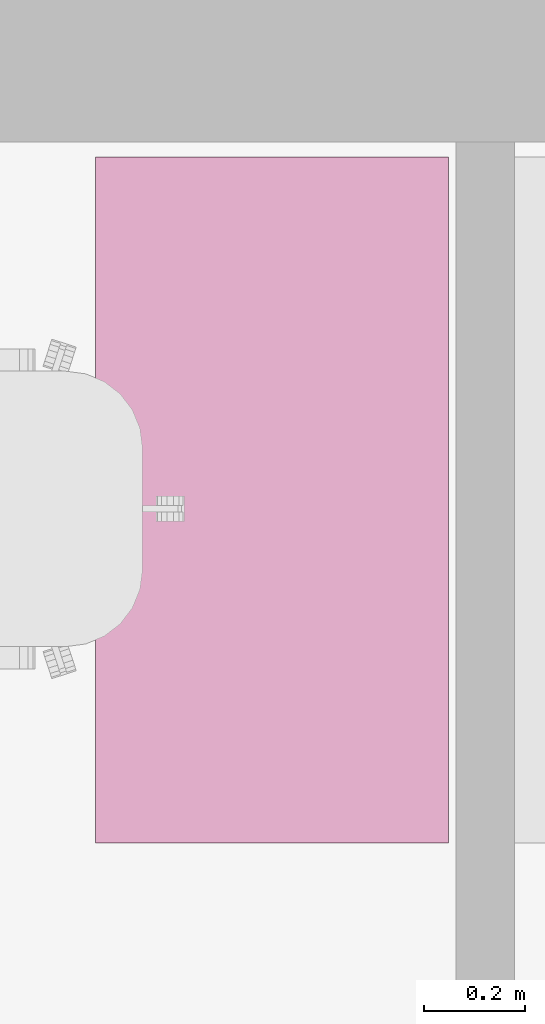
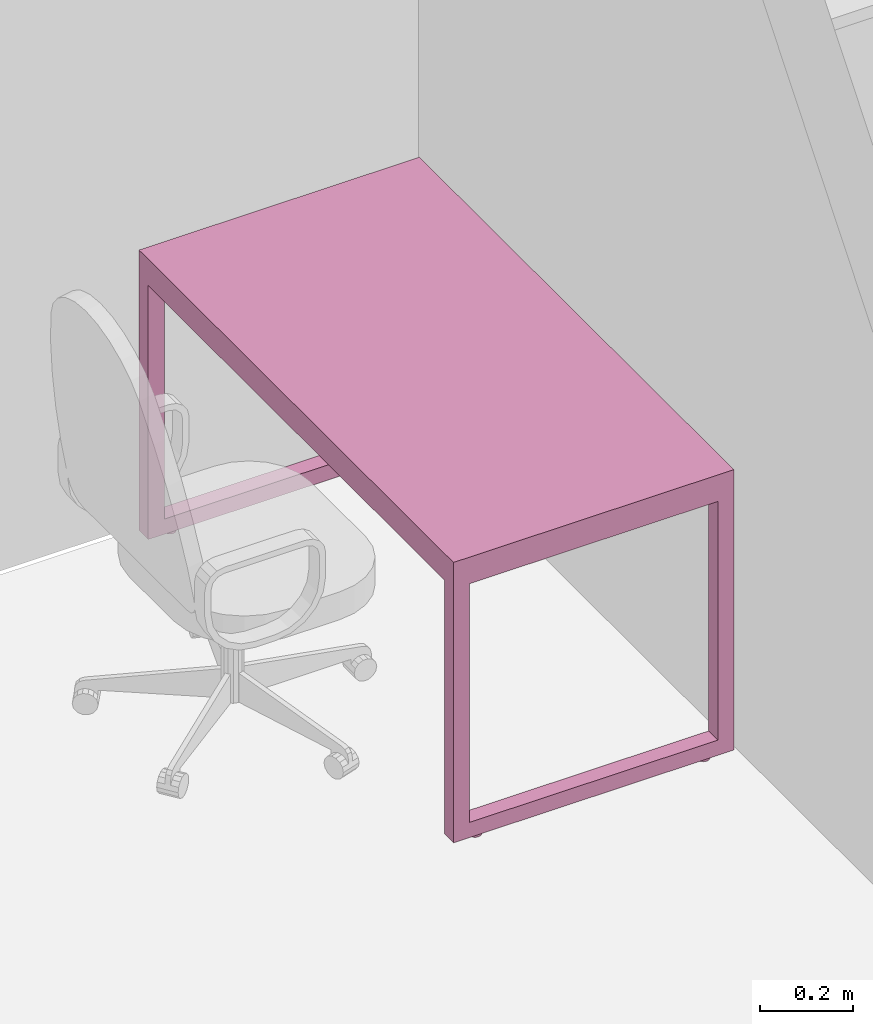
# One storey, part 42 of 48: 1 furnishing.
"""IFC2X3 building model written with IfcOpenShell, lengths in millimetres."""

from ifc_helpers import new_model, entity, si_unit, converted_unit, derived_unit, direction, frame, origin, place, context, subcontext, project, spatial, faceted_brep, source, transform, mapped, material, material_list, type_object, type_shapes, element, save


model = new_model("IFC2X3")

# Units and contexts
model_context = context("Model", 3, precision=0.01, world=origin(), true_north=direction((6.12303176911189e-17, 1.0)))
body_context = subcontext(model_context, "Body", "Model", "MODEL_VIEW")
ifc_project = project(units=[si_unit("LENGTHUNIT", "METRE", prefix="MILLI"), si_unit("AREAUNIT", "SQUARE_METRE"), si_unit("VOLUMEUNIT", "CUBIC_METRE"), converted_unit("PLANEANGLEUNIT", "DEGREE", entity("IfcRatioMeasure", 0.0174532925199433), si_unit("PLANEANGLEUNIT", "RADIAN"), dimensions=[0, 0, 0, 0, 0, 0, 0]), si_unit("MASSUNIT", "GRAM", prefix="KILO"), derived_unit("MASSDENSITYUNIT", [(si_unit("MASSUNIT", "GRAM", prefix="KILO"), 1), (si_unit("LENGTHUNIT", "METRE"), -3)]), si_unit("TIMEUNIT", "SECOND"), si_unit("FREQUENCYUNIT", "HERTZ"), si_unit("THERMODYNAMICTEMPERATUREUNIT", "DEGREE_CELSIUS"), derived_unit("THERMALTRANSMITTANCEUNIT", [(si_unit("MASSUNIT", "GRAM", prefix="KILO"), 1), (si_unit("THERMODYNAMICTEMPERATUREUNIT", "KELVIN"), -1), (si_unit("TIMEUNIT", "SECOND"), -3)]), derived_unit("VOLUMETRICFLOWRATEUNIT", [(si_unit("LENGTHUNIT", "METRE"), 3), (si_unit("TIMEUNIT", "SECOND"), -1)]), si_unit("ELECTRICCURRENTUNIT", "AMPERE"), si_unit("ELECTRICVOLTAGEUNIT", "VOLT"), si_unit("POWERUNIT", "WATT"), si_unit("FORCEUNIT", "NEWTON", prefix="KILO"), si_unit("ILLUMINANCEUNIT", "LUX"), si_unit("LUMINOUSFLUXUNIT", "LUMEN"), si_unit("LUMINOUSINTENSITYUNIT", "CANDELA"), derived_unit("USERDEFINED", [(si_unit("MASSUNIT", "GRAM", prefix="KILO"), -1), (si_unit("LENGTHUNIT", "METRE"), -2), (si_unit("TIMEUNIT", "SECOND"), 3), (si_unit("LUMINOUSFLUXUNIT", "LUMEN"), 1)]), derived_unit("LINEARVELOCITYUNIT", [(si_unit("LENGTHUNIT", "METRE"), 1), (si_unit("TIMEUNIT", "SECOND"), -1)]), si_unit("PRESSUREUNIT", "PASCAL"), derived_unit("USERDEFINED", [(si_unit("LENGTHUNIT", "METRE"), -2), (si_unit("MASSUNIT", "GRAM", prefix="KILO"), 1), (si_unit("TIMEUNIT", "SECOND"), -2)]), derived_unit("LINEARFORCEUNIT", [(si_unit("MASSUNIT", "GRAM", prefix="KILO"), 1), (si_unit("LENGTHUNIT", "METRE"), 1), (si_unit("TIMEUNIT", "SECOND"), -2), (si_unit("LENGTHUNIT", "METRE"), -1)]), derived_unit("PLANARFORCEUNIT", [(si_unit("MASSUNIT", "GRAM", prefix="KILO"), 1), (si_unit("LENGTHUNIT", "METRE"), 1), (si_unit("TIMEUNIT", "SECOND"), -2), (si_unit("LENGTHUNIT", "METRE"), -2)])], contexts=[model_context])

# Site, building, storey, space
site_placement = place(None, origin())
site = spatial("IfcSite", under=ifc_project, at=site_placement, Name="Default", CompositionType="ELEMENT")
building_placement = place(site_placement, origin())
building = spatial("IfcBuilding", under=site, at=building_placement, Name="SMA ARH", CompositionType="ELEMENT")
storey_placement = place(building_placement, frame((0.0, 0.0, 3300.0)))
storey = spatial("IfcBuildingStorey", under=building, at=storey_placement, Name="2 Korrus", CompositionType="ELEMENT", Elevation=3299.99999999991)
space_placement = place(storey_placement, origin())
space = spatial("IfcSpace", under=storey, at=space_placement, Name="2-29", CompositionType="ELEMENT", InteriorOrExteriorSpace="INTERNAL")

# Furnishing
ifc_material = material(Name="<Unnamed>")
ifc_material_list = material_list([ifc_material, ifc_material])
furniture_type = type_object("IfcFurnitureType", Name="kirjutuslaud 1360x700mm:kirjutuslaud 1360x700mm", material=ifc_material_list)
shared_shape = source(origin(), body_context, "Body", "Brep", [
    faceted_brep([(680.0, 350.0, 720.0), (680.0, 350.0, 750.0), (680.0, -350.0, 750.0), (680.0, -350.0, 720.0), (-680.0, 350.0, 720.0), (-680.0, -350.0, 720.0), (-680.0, -350.0, 750.0), (-680.0, 350.0, 750.0)], [[[0, 1, 2, 3]], [[4, 5, 6, 7]], [[3, 5, 4, 0]], [[2, 6, 5, 3]], [[1, 7, 6, 2]], [[0, 4, 7, 1]]]),
    faceted_brep([(-640.0, 310.0, 680.0), (-640.0, 310.0, 720.0), (-640.0, -310.0, 720.0), (-640.0, -310.0, 680.0), (-680.0, 350.0, 720.0), (-680.0, 350.0, 10.0), (-680.0, -350.0, 10.0), (-680.0, -350.0, 720.0), (-680.0, -310.0, 680.0), (-680.0, -310.0, 50.0), (-680.0, 310.0, 50.0), (-680.0, 310.0, 680.0), (680.0, 350.0, 720.0), (680.0, 350.0, 10.0), (640.0, 350.0, 10.0), (640.0, 350.0, 680.0), (-640.0, 350.0, 680.0), (-640.0, 350.0, 10.0), (-640.0, -350.0, 10.0), (-640.0, -350.0, 680.0), (640.0, -350.0, 680.0), (640.0, -350.0, 10.0), (680.0, -350.0, 10.0), (680.0, -350.0, 720.0), (640.0, 310.0, 720.0), (640.0, -310.0, 720.0), (-640.0, -310.0, 50.0), (-640.0, 310.0, 50.0), (640.0, -310.0, 680.0), (640.0, 310.0, 680.0), (680.0, -310.0, 680.0), (680.0, 310.0, 680.0), (680.0, 310.0, 50.0), (680.0, -310.0, 50.0), (640.0, -310.0, 50.0), (640.0, 310.0, 50.0)], [[[0, 1, 2, 3]], [[4, 5, 6, 7], [8, 9, 10, 11]], [[4, 12, 13, 14, 15, 16, 17, 5]], [[18, 6, 5, 17]], [[6, 18, 19, 20, 21, 22, 23, 7]], [[2, 1, 24, 25], [23, 12, 4, 7]], [[26, 9, 8, 3]], [[27, 10, 9, 26]], [[0, 11, 10, 27]], [[3, 8, 11, 0]], [[28, 20, 19, 3]], [[25, 28, 3, 2]], [[1, 0, 29, 24]], [[12, 23, 22, 13], [30, 31, 32, 33]], [[21, 20, 28, 34, 35, 29, 15, 14]], [[22, 21, 14, 13]], [[33, 34, 28, 30]], [[32, 35, 34, 33]], [[31, 29, 35, 32]], [[30, 28, 29, 31]], [[28, 25, 24, 29]], [[15, 29, 0, 16]], [[17, 16, 0, 27, 26, 3, 19, 18]]], outer=[[True], [True, False], [True], [True], [True], [False, True], [True], [True], [True], [True], [True], [True], [True], [True, False], [True], [True], [True], [True], [True], [True], [True], [True], [True]]),
    faceted_brep([(-655.964885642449, 270.466136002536, 0.0), (-659.847171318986, 269.955023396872, 0.0), (-663.729456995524, 270.466136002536, 0.0), (-667.347171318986, 271.964642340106, 0.0), (-670.453773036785, 274.348421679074, 0.0), (-672.837552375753, 277.455023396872, 0.0), (-674.336058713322, 281.072737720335, 0.0), (-674.847171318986, 284.955023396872, 0.0), (-674.336058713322, 288.83730907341, 0.0), (-672.837552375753, 292.455023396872, 0.0), (-670.453773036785, 295.561625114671, 0.0), (-667.347171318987, 297.945404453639, 0.0), (-663.729456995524, 299.443910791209, 0.0), (-659.847171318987, 299.955023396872, 0.0), (-655.964885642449, 299.443910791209, 0.0), (-652.347171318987, 297.945404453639, 0.0), (-649.240569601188, 295.561625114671, 0.0), (-646.85679026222, 292.455023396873, 0.0), (-645.35828392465, 288.83730907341, 0.0), (-644.847171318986, 284.955023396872, 0.0), (-645.35828392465, 281.072737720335, 0.0), (-646.85679026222, 277.455023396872, 0.0), (-649.240569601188, 274.348421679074, 0.0), (-652.347171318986, 271.964642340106, 0.0), (-649.240569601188, 295.561625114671, 10.0), (-652.347171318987, 297.945404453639, 10.0), (-655.964885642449, 299.443910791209, 10.0), (-659.847171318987, 299.955023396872, 10.0), (-663.729456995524, 299.443910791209, 10.0), (-667.347171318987, 297.945404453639, 10.0), (-670.453773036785, 295.561625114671, 10.0), (-672.837552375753, 292.455023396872, 10.0), (-674.336058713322, 288.83730907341, 10.0), (-674.847171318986, 284.955023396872, 10.0), (-674.336058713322, 281.072737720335, 10.0), (-672.837552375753, 277.455023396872, 10.0), (-670.453773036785, 274.348421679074, 10.0), (-667.347171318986, 271.964642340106, 10.0), (-663.729456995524, 270.466136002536, 10.0), (-659.847171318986, 269.955023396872, 10.0), (-655.964885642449, 270.466136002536, 10.0), (-652.347171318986, 271.964642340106, 10.0), (-649.240569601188, 274.348421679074, 10.0), (-646.85679026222, 277.455023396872, 10.0), (-645.35828392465, 281.072737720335, 10.0), (-644.847171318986, 284.955023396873, 10.0), (-645.35828392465, 288.83730907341, 10.0), (-646.85679026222, 292.455023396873, 10.0)], [[[0, 1, 2, 3, 4, 5, 6, 7, 8, 9, 10, 11, 12, 13, 14, 15, 16, 17, 18, 19, 20, 21, 22, 23]], [[24, 25, 26, 27, 28, 29, 30, 31, 32, 33, 34, 35, 36, 37, 38, 39, 40, 41, 42, 43, 44, 45, 46, 47]], [[7, 33, 32, 8]], [[8, 32, 31, 9]], [[11, 10, 30, 29]], [[30, 10, 9, 31]], [[12, 11, 29, 28]], [[12, 28, 27, 13]], [[13, 27, 26, 14]], [[14, 26, 25, 15]], [[17, 16, 24, 47]], [[24, 16, 15, 25]], [[18, 17, 47, 46]], [[18, 46, 45, 19]], [[19, 45, 44, 20]], [[20, 44, 43, 21]], [[23, 22, 42, 41]], [[42, 22, 21, 43]], [[0, 23, 41, 40]], [[0, 40, 39, 1]], [[1, 39, 38, 2]], [[2, 38, 37, 3]], [[5, 4, 36, 35]], [[36, 4, 3, 37]], [[6, 5, 35, 34]], [[6, 34, 33, 7]]]),
    faceted_brep([(-649.240569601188, -274.348421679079, 10.0), (-652.347171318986, -271.964642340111, 10.0), (-655.964885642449, -270.466136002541, 10.0), (-659.847171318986, -269.955023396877, 10.0), (-663.729456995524, -270.466136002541, 10.0), (-667.347171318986, -271.964642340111, 10.0), (-670.453773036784, -274.348421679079, 10.0), (-672.837552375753, -277.455023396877, 10.0), (-674.336058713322, -281.07273772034, 10.0), (-674.847171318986, -284.955023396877, 10.0), (-674.336058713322, -288.837309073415, 10.0), (-672.837552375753, -292.455023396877, 10.0), (-670.453773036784, -295.561625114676, 10.0), (-667.347171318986, -297.945404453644, 10.0), (-663.729456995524, -299.443910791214, 10.0), (-659.847171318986, -299.955023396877, 10.0), (-655.964885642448, -299.443910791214, 10.0), (-652.347171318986, -297.945404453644, 10.0), (-649.240569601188, -295.561625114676, 10.0), (-646.85679026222, -292.455023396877, 10.0), (-645.35828392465, -288.837309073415, 10.0), (-644.847171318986, -284.955023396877, 10.0), (-645.35828392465, -281.07273772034, 10.0), (-646.85679026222, -277.455023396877, 10.0), (-659.847171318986, -299.955023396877, 0.0), (-663.729456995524, -299.443910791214, 0.0), (-667.347171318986, -297.945404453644, 0.0), (-670.453773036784, -295.561625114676, 0.0), (-672.837552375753, -292.455023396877, 0.0), (-674.336058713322, -288.837309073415, 0.0), (-674.847171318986, -284.955023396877, 0.0), (-674.336058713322, -281.07273772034, 0.0), (-672.837552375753, -277.455023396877, 0.0), (-670.453773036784, -274.348421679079, 0.0), (-667.347171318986, -271.964642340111, 0.0), (-663.729456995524, -270.466136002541, 0.0), (-659.847171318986, -269.955023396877, 0.0), (-655.964885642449, -270.466136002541, 0.0), (-652.347171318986, -271.964642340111, 0.0), (-649.240569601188, -274.348421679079, 0.0), (-646.85679026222, -277.455023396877, 0.0), (-645.35828392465, -281.07273772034, 0.0), (-644.847171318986, -284.955023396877, 0.0), (-645.35828392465, -288.837309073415, 0.0), (-646.85679026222, -292.455023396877, 0.0), (-649.240569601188, -295.561625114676, 0.0), (-652.347171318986, -297.945404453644, 0.0), (-655.964885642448, -299.443910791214, 0.0)], [[[0, 1, 2, 3, 4, 5, 6, 7, 8, 9, 10, 11, 12, 13, 14, 15, 16, 17, 18, 19, 20, 21, 22, 23]], [[24, 25, 26, 27, 28, 29, 30, 31, 32, 33, 34, 35, 36, 37, 38, 39, 40, 41, 42, 43, 44, 45, 46, 47]], [[30, 9, 8, 31]], [[31, 8, 7, 32]], [[34, 33, 6, 5]], [[6, 33, 32, 7]], [[35, 34, 5, 4]], [[35, 4, 3, 36]], [[36, 3, 2, 37]], [[37, 2, 1, 38]], [[40, 39, 0, 23]], [[0, 39, 38, 1]], [[41, 40, 23, 22]], [[41, 22, 21, 42]], [[42, 21, 20, 43]], [[43, 20, 19, 44]], [[46, 45, 18, 17]], [[18, 45, 44, 19]], [[47, 46, 17, 16]], [[47, 16, 15, 24]], [[24, 15, 14, 25]], [[25, 14, 13, 26]], [[28, 27, 12, 11]], [[12, 27, 26, 13]], [[29, 28, 11, 10]], [[29, 10, 9, 30]]]),
    faceted_brep([(664.035114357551, 270.466136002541, 0.0), (660.152828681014, 269.955023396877, 0.0), (656.270543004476, 270.466136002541, 0.0), (652.652828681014, 271.96464234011, 0.0), (649.546226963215, 274.348421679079, 0.0), (647.162447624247, 277.455023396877, 0.0), (645.663941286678, 281.072737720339, 0.0), (645.152828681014, 284.955023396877, 0.0), (645.663941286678, 288.837309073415, 0.0), (647.162447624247, 292.455023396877, 0.0), (649.546226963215, 295.561625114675, 0.0), (652.652828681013, 297.945404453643, 0.0), (656.270543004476, 299.443910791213, 0.0), (660.152828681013, 299.955023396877, 0.0), (664.035114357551, 299.443910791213, 0.0), (667.652828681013, 297.945404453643, 0.0), (670.759430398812, 295.561625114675, 0.0), (673.14320973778, 292.455023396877, 0.0), (674.64171607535, 288.837309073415, 0.0), (675.152828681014, 284.955023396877, 0.0), (674.64171607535, 281.072737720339, 0.0), (673.14320973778, 277.455023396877, 0.0), (670.759430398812, 274.348421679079, 0.0), (667.652828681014, 271.96464234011, 0.0), (670.759430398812, 295.561625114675, 10.0), (667.652828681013, 297.945404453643, 10.0), (664.035114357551, 299.443910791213, 10.0), (660.152828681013, 299.955023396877, 10.0), (656.270543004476, 299.443910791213, 10.0), (652.652828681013, 297.945404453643, 10.0), (649.546226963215, 295.561625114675, 10.0), (647.162447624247, 292.455023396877, 10.0), (645.663941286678, 288.837309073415, 10.0), (645.152828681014, 284.955023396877, 10.0), (645.663941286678, 281.072737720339, 10.0), (647.162447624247, 277.455023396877, 10.0), (649.546226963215, 274.348421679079, 10.0), (652.652828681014, 271.96464234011, 10.0), (656.270543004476, 270.466136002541, 10.0), (660.152828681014, 269.955023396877, 10.0), (664.035114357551, 270.466136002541, 10.0), (667.652828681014, 271.96464234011, 10.0), (670.759430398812, 274.348421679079, 10.0), (673.14320973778, 277.455023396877, 10.0), (674.64171607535, 281.072737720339, 10.0), (675.152828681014, 284.955023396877, 10.0), (674.64171607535, 288.837309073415, 10.0), (673.14320973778, 292.455023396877, 10.0)], [[[0, 1, 2, 3, 4, 5, 6, 7, 8, 9, 10, 11, 12, 13, 14, 15, 16, 17, 18, 19, 20, 21, 22, 23]], [[24, 25, 26, 27, 28, 29, 30, 31, 32, 33, 34, 35, 36, 37, 38, 39, 40, 41, 42, 43, 44, 45, 46, 47]], [[7, 33, 32, 8]], [[8, 32, 31, 9]], [[11, 10, 30, 29]], [[30, 10, 9, 31]], [[12, 11, 29, 28]], [[12, 28, 27, 13]], [[13, 27, 26, 14]], [[14, 26, 25, 15]], [[17, 16, 24, 47]], [[24, 16, 15, 25]], [[18, 17, 47, 46]], [[18, 46, 45, 19]], [[19, 45, 44, 20]], [[20, 44, 43, 21]], [[23, 22, 42, 41]], [[42, 22, 21, 43]], [[0, 23, 41, 40]], [[0, 40, 39, 1]], [[1, 39, 38, 2]], [[2, 38, 37, 3]], [[5, 4, 36, 35]], [[36, 4, 3, 37]], [[6, 5, 35, 34]], [[6, 34, 33, 7]]]),
    faceted_brep([(670.759430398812, -274.348421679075, 10.0), (667.652828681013, -271.964642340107, 10.0), (664.035114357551, -270.466136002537, 10.0), (660.152828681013, -269.955023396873, 10.0), (656.270543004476, -270.466136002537, 10.0), (652.652828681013, -271.964642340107, 10.0), (649.546226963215, -274.348421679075, 10.0), (647.162447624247, -277.455023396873, 10.0), (645.663941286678, -281.072737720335, 10.0), (645.152828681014, -284.955023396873, 10.0), (645.663941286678, -288.837309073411, 10.0), (647.162447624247, -292.455023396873, 10.0), (649.546226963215, -295.561625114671, 10.0), (652.652828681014, -297.94540445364, 10.0), (656.270543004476, -299.443910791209, 10.0), (660.152828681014, -299.955023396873, 10.0), (664.035114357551, -299.443910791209, 10.0), (667.652828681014, -297.94540445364, 10.0), (670.759430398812, -295.561625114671, 10.0), (673.14320973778, -292.455023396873, 10.0), (674.64171607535, -288.837309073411, 10.0), (675.152828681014, -284.955023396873, 10.0), (674.64171607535, -281.072737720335, 10.0), (673.14320973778, -277.455023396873, 10.0), (660.152828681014, -299.955023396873, 0.0), (656.270543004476, -299.443910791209, 0.0), (652.652828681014, -297.94540445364, 0.0), (649.546226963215, -295.561625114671, 0.0), (647.162447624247, -292.455023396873, 0.0), (645.663941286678, -288.837309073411, 0.0), (645.152828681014, -284.955023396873, 0.0), (645.663941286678, -281.072737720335, 0.0), (647.162447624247, -277.455023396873, 0.0), (649.546226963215, -274.348421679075, 0.0), (652.652828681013, -271.964642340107, 0.0), (656.270543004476, -270.466136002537, 0.0), (660.152828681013, -269.955023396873, 0.0), (664.035114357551, -270.466136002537, 0.0), (667.652828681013, -271.964642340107, 0.0), (670.759430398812, -274.348421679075, 0.0), (673.14320973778, -277.455023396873, 0.0), (674.64171607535, -281.072737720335, 0.0), (675.152828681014, -284.955023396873, 0.0), (674.64171607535, -288.837309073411, 0.0), (673.14320973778, -292.455023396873, 0.0), (670.759430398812, -295.561625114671, 0.0), (667.652828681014, -297.94540445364, 0.0), (664.035114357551, -299.443910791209, 0.0)], [[[0, 1, 2, 3, 4, 5, 6, 7, 8, 9, 10, 11, 12, 13, 14, 15, 16, 17, 18, 19, 20, 21, 22, 23]], [[24, 25, 26, 27, 28, 29, 30, 31, 32, 33, 34, 35, 36, 37, 38, 39, 40, 41, 42, 43, 44, 45, 46, 47]], [[30, 9, 8, 31]], [[31, 8, 7, 32]], [[34, 33, 6, 5]], [[6, 33, 32, 7]], [[35, 34, 5, 4]], [[35, 4, 3, 36]], [[36, 3, 2, 37]], [[37, 2, 1, 38]], [[40, 39, 0, 23]], [[0, 39, 38, 1]], [[41, 40, 23, 22]], [[41, 22, 21, 42]], [[42, 21, 20, 43]], [[43, 20, 19, 44]], [[46, 45, 18, 17]], [[18, 45, 44, 19]], [[47, 46, 17, 16]], [[47, 16, 15, 24]], [[24, 15, 14, 25]], [[25, 14, 13, 26]], [[28, 27, 12, 11]], [[12, 27, 26, 13]], [[29, 28, 11, 10]], [[29, 10, 9, 30]]]),
])
type_shapes(furniture_type, [shared_shape])
furnishing_placement = place(space_placement, frame((27279.0, 11790.0, 0.0), z_axis=(0.0, 0.0, 1.0), x_axis=(0.0, 1.0, 0.0)))
element("IfcFurnishingElement", 1, at=furnishing_placement, inside=space, type_object=furniture_type, Name="kirjutuslaud 1360x700mm:kirjutuslaud 1360x700mm", ObjectType="kirjutuslaud 1360x700mm:kirjutuslaud 1360x700mm", context=body_context, shape_type="MappedRepresentation", body=[
    mapped(shared_shape, transform((0.0, 0.0, 0.0), scale=1.0)),
])

save(model, "model.ifc")
